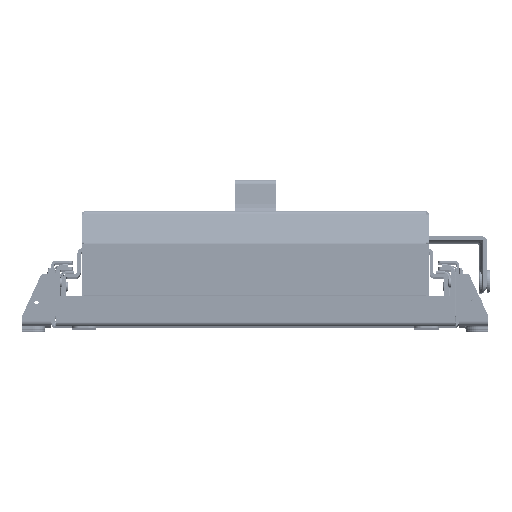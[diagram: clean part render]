
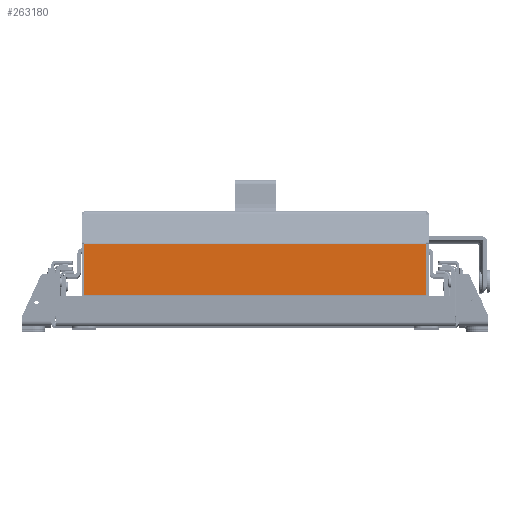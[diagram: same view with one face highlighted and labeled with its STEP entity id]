
A CAD part, top view. The second image highlights one B-rep face of the part: STEP entity #263180.
In plain terms, the highlighted planar face has unit normal (0, 0, 1) as drawn and (1, 0, 0) by its records, which use the part's own axes.
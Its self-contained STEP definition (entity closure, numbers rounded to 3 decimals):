
#263180 = ADVANCED_FACE ( 'NONE', ( #88749 ), #88750, .F. ) ;
#214223 = LINE ( 'NONE', #214224, #214225 ) ;
#214224 = CARTESIAN_POINT ( 'NONE',  ( 10., 0., 105. ) ) ;
#214225 = VECTOR ( 'NONE', #214541, 1000. ) ;
#214405 = ORIENTED_EDGE ( 'NONE', *, *, #117546, .T. ) ;
#214541 = DIRECTION ( 'NONE',  ( 0., 1., 0. ) ) ;
#117546 = EDGE_CURVE ( 'NONE', #254730, #14594, #298400, .T. ) ;
#281775 = VERTEX_POINT ( 'NONE', #319721 ) ;
#298400 = LINE ( 'NONE', #298401, #298402 ) ;
#298401 = CARTESIAN_POINT ( 'NONE',  ( 10., 2.5, 105. ) ) ;
#298402 = VECTOR ( 'NONE', #298403, 1000. ) ;
#298403 = DIRECTION ( 'NONE',  ( 0., 0., -1. ) ) ;
#249370 = ORIENTED_EDGE ( 'NONE', *, *, #285773, .T. ) ;
#233205 = EDGE_CURVE ( 'NONE', #28278, #281775, #299170, .T. ) ;
#299170 = LINE ( 'NONE', #299171, #299172 ) ;
#299171 = CARTESIAN_POINT ( 'NONE',  ( 10., 33.559, 105. ) ) ;
#299172 = VECTOR ( 'NONE', #299173, 1000. ) ;
#299173 = DIRECTION ( 'NONE',  ( 0., 0., -1. ) ) ;
#315667 = CARTESIAN_POINT ( 'NONE',  ( 10., 2.5, 105. ) ) ;
#332054 = CARTESIAN_POINT ( 'NONE',  ( 10., 33.559, 105. ) ) ;
#88749 = FACE_OUTER_BOUND ( 'NONE', #258802, .T. ) ;
#88750 = PLANE ( 'NONE',  #88751 ) ;
#88751 = AXIS2_PLACEMENT_3D ( 'NONE', #88752, #88753, #88754 ) ;
#88752 = CARTESIAN_POINT ( 'NONE',  ( 10., 0., 105. ) ) ;
#88753 = DIRECTION ( 'NONE',  ( -1., 0., 0. ) ) ;
#88754 = DIRECTION ( 'NONE',  ( 0., -1., 0. ) ) ;
#285773 = EDGE_CURVE ( 'NONE', #14594, #281775, #26908, .T. ) ;
#319721 = CARTESIAN_POINT ( 'NONE',  ( 10., 33.559, -105. ) ) ;
#254730 = VERTEX_POINT ( 'NONE', #315667 ) ;
#26908 = LINE ( 'NONE', #26909, #27224 ) ;
#26909 = CARTESIAN_POINT ( 'NONE',  ( 10., 0., -105. ) ) ;
#239982 = ORIENTED_EDGE ( 'NONE', *, *, #233205, .F. ) ;
#223790 = ORIENTED_EDGE ( 'NONE', *, *, #111895, .F. ) ;
#27224 = VECTOR ( 'NONE', #27225, 1000. ) ;
#27225 = DIRECTION ( 'NONE',  ( 0., 1., 0. ) ) ;
#28278 = VERTEX_POINT ( 'NONE', #332054 ) ;
#258802 = EDGE_LOOP ( 'NONE', ( #249370, #239982, #223790, #214405 ) ) ;
#111895 = EDGE_CURVE ( 'NONE', #254730, #28278, #214223, .T. ) ;
#128450 = CARTESIAN_POINT ( 'NONE',  ( 10., 2.5, -105. ) ) ;
#14594 = VERTEX_POINT ( 'NONE', #128450 ) ;
